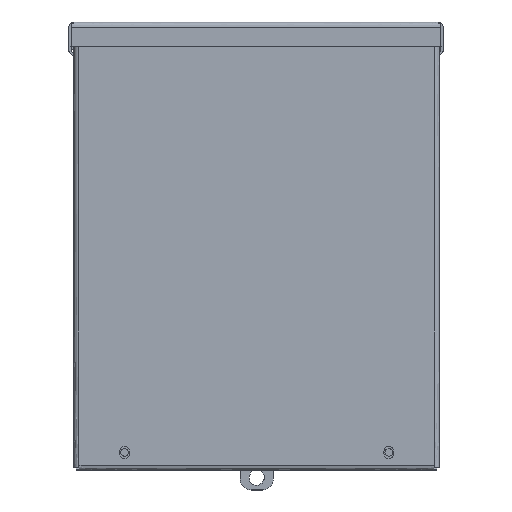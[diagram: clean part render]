
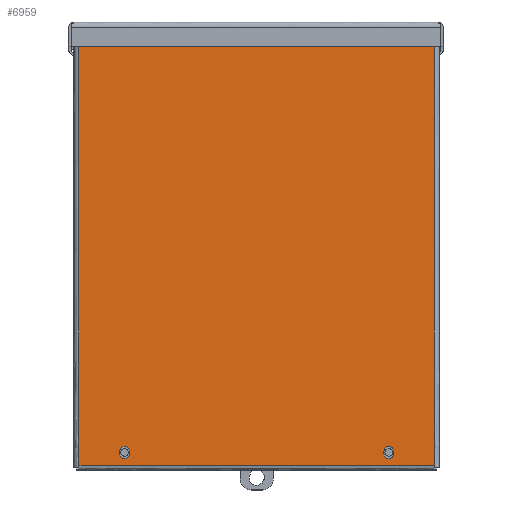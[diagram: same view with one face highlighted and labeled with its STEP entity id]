
A CAD part, top view. The second image highlights one B-rep face of the part: STEP entity #6959.
In plain terms, the highlighted free-form (B-spline) face has degree [1, 1] with [2, 2] control points.
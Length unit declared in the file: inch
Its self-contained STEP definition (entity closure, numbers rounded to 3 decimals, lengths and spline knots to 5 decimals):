
#6174=CARTESIAN_POINT('V71',(0.9855,-0.055,
   9.622));
#6175=VERTEX_POINT('V71',#6174);
#6183=CARTESIAN_POINT('V74',(1.2045,-0.055,
   9.622));
#6184=VERTEX_POINT('V74',#6183);
#6185=CARTESIAN_POINT('E88',(1.2045,-0.055,
   9.622));
#6186=CARTESIAN_POINT('E88',(1.2045,-0.055,
   9.5125));
#6187=CARTESIAN_POINT('E88',(1.095,-0.055,
   9.5125));
#6188=CARTESIAN_POINT('E88',(0.9855,-0.055,
   9.5125));
#6189=CARTESIAN_POINT('E88',(0.9855,-0.055,
   9.622));
#6197=(BOUNDED_CURVE()B_SPLINE_CURVE(2,(#6185,#6186,#6187,#6188,
   #6189),.CIRCULAR_ARC.,.F.,.U.)B_SPLINE_CURVE_WITH_KNOTS((3,2,3),
   (0.0,0.5,1.0),.UNSPECIFIED.)CURVE()
   GEOMETRIC_REPRESENTATION_ITEM()RATIONAL_B_SPLINE_CURVE((1.0,
   0.707,1.0,0.707,1.0))REPRESENTATION_ITEM(
   'E88'));
#6198=EDGE_CURVE('E88',#6184,#6175,#6197,.T.);
#6231=CARTESIAN_POINT('V73',(1.2045,-0.055,
   9.684));
#6232=VERTEX_POINT('V73',#6231);
#6233=CARTESIAN_POINT('E87',(1.2045,-0.055,
   9.684));
#6234=CARTESIAN_POINT('E87',(1.2045,-0.055,
   9.622));
#6235=QUASI_UNIFORM_CURVE('E87',1,(#6233,#6234),.POLYLINE_FORM.,.F.,
   .U.);
#6236=EDGE_CURVE('E87',#6232,#6184,#6235,.T.);
#6272=CARTESIAN_POINT('V72',(0.9855,-0.055,
   9.684));
#6273=VERTEX_POINT('V72',#6272);
#6274=CARTESIAN_POINT('E86',(0.9855,-0.055,
   9.684));
#6275=CARTESIAN_POINT('E86',(0.9855,-0.055,
   9.7935));
#6276=CARTESIAN_POINT('E86',(1.095,-0.055,
   9.7935));
#6277=CARTESIAN_POINT('E86',(1.2045,-0.055,
   9.7935));
#6278=CARTESIAN_POINT('E86',(1.2045,-0.055,
   9.684));
#6286=(BOUNDED_CURVE()B_SPLINE_CURVE(2,(#6274,#6275,#6276,#6277,
   #6278),.CIRCULAR_ARC.,.F.,.U.)B_SPLINE_CURVE_WITH_KNOTS((3,2,3),
   (0.0,0.5,1.0),.UNSPECIFIED.)CURVE()
   GEOMETRIC_REPRESENTATION_ITEM()RATIONAL_B_SPLINE_CURVE((1.0,
   0.707,1.0,0.707,1.0))REPRESENTATION_ITEM(
   'E86'));
#6287=EDGE_CURVE('E86',#6273,#6232,#6286,.T.);
#6320=CARTESIAN_POINT('E85',(0.9855,-0.055,
   9.622));
#6321=CARTESIAN_POINT('E85',(0.9855,-0.055,
   9.684));
#6322=QUASI_UNIFORM_CURVE('E85',1,(#6320,#6321),.POLYLINE_FORM.,.F.,
   .U.);
#6323=EDGE_CURVE('E85',#6175,#6273,#6322,.T.);
#6352=CARTESIAN_POINT('V67',(7.2045,-0.055,
   9.684));
#6353=VERTEX_POINT('V67',#6352);
#6361=CARTESIAN_POINT('V70',(6.9855,-0.055,
   9.684));
#6362=VERTEX_POINT('V70',#6361);
#6363=CARTESIAN_POINT('E84',(6.9855,-0.055,
   9.684));
#6364=CARTESIAN_POINT('E84',(6.9855,-0.055,
   9.7935));
#6365=CARTESIAN_POINT('E84',(7.095,-0.055,
   9.7935));
#6366=CARTESIAN_POINT('E84',(7.2045,-0.055,
   9.7935));
#6367=CARTESIAN_POINT('E84',(7.2045,-0.055,
   9.684));
#6375=(BOUNDED_CURVE()B_SPLINE_CURVE(2,(#6363,#6364,#6365,#6366,
   #6367),.CIRCULAR_ARC.,.F.,.U.)B_SPLINE_CURVE_WITH_KNOTS((3,2,3),
   (0.0,0.5,1.0),.UNSPECIFIED.)CURVE()
   GEOMETRIC_REPRESENTATION_ITEM()RATIONAL_B_SPLINE_CURVE((1.0,
   0.707,1.0,0.707,1.0))REPRESENTATION_ITEM(
   'E84'));
#6376=EDGE_CURVE('E84',#6362,#6353,#6375,.T.);
#6409=CARTESIAN_POINT('V69',(6.9855,-0.055,
   9.622));
#6410=VERTEX_POINT('V69',#6409);
#6411=CARTESIAN_POINT('E83',(6.9855,-0.055,
   9.622));
#6412=CARTESIAN_POINT('E83',(6.9855,-0.055,
   9.684));
#6413=QUASI_UNIFORM_CURVE('E83',1,(#6411,#6412),.POLYLINE_FORM.,.F.,
   .U.);
#6414=EDGE_CURVE('E83',#6410,#6362,#6413,.T.);
#6450=CARTESIAN_POINT('V68',(7.2045,-0.055,
   9.622));
#6451=VERTEX_POINT('V68',#6450);
#6452=CARTESIAN_POINT('E82',(7.2045,-0.055,
   9.622));
#6453=CARTESIAN_POINT('E82',(7.2045,-0.055,
   9.5125));
#6454=CARTESIAN_POINT('E82',(7.095,-0.055,
   9.5125));
#6455=CARTESIAN_POINT('E82',(6.9855,-0.055,
   9.5125));
#6456=CARTESIAN_POINT('E82',(6.9855,-0.055,
   9.622));
#6464=(BOUNDED_CURVE()B_SPLINE_CURVE(2,(#6452,#6453,#6454,#6455,
   #6456),.CIRCULAR_ARC.,.F.,.U.)B_SPLINE_CURVE_WITH_KNOTS((3,2,3),
   (0.0,0.5,1.0),.UNSPECIFIED.)CURVE()
   GEOMETRIC_REPRESENTATION_ITEM()RATIONAL_B_SPLINE_CURVE((1.0,
   0.707,1.0,0.707,1.0))REPRESENTATION_ITEM(
   'E82'));
#6465=EDGE_CURVE('E82',#6451,#6410,#6464,.T.);
#6498=CARTESIAN_POINT('E81',(7.2045,-0.055,
   9.684));
#6499=CARTESIAN_POINT('E81',(7.2045,-0.055,
   9.622));
#6500=QUASI_UNIFORM_CURVE('E81',1,(#6498,#6499),.POLYLINE_FORM.,.F.,
   .U.);
#6501=EDGE_CURVE('E81',#6353,#6451,#6500,.T.);
#6856=CARTESIAN_POINT('V44',(0.06,-0.055,
   9.945));
#6857=VERTEX_POINT('V44',#6856);
#6894=CARTESIAN_POINT('V45',(0.06,-0.055,
   0.));
#6895=VERTEX_POINT('V45',#6894);
#6896=CARTESIAN_POINT('E52',(0.06,-0.055,
   0.));
#6897=CARTESIAN_POINT('E52',(0.06,-0.055,
   9.945));
#6898=QUASI_UNIFORM_CURVE('E52',1,(#6896,#6897),.POLYLINE_FORM.,.F.,
   .U.);
#6899=EDGE_CURVE('E52',#6895,#6857,#6898,.T.);
#6920=CARTESIAN_POINT('F21',(8.13,-0.055,
   0.));
#6921=CARTESIAN_POINT('F21',(8.13,-0.055,
   9.945));
#6922=CARTESIAN_POINT('F21',(0.06,-0.055,
   0.));
#6923=CARTESIAN_POINT('F21',(0.06,-0.055,
   9.945));
#6924=B_SPLINE_SURFACE_WITH_KNOTS('F21',1,1,((#6920,#6922),(#6921,
   #6923)),.PLANE_SURF.,.F.,.F.,.U.,(2,2),(2,2),(
   0.00015,1.23213),(0.00015,
   0.99985),.UNSPECIFIED.);
#6925=CARTESIAN_POINT('V41',(8.13,-0.055,
   0.));
#6926=VERTEX_POINT('V41',#6925);
#6927=CARTESIAN_POINT('E80',(0.06,-0.055,
   0.0));
#6928=CARTESIAN_POINT('E80',(8.13,-0.055,
   0.0));
#6929=QUASI_UNIFORM_CURVE('E80',1,(#6927,#6928),.POLYLINE_FORM.,.F.,
   .U.);
#6930=EDGE_CURVE('E80',#6895,#6926,#6929,.T.);
#6931=ORIENTED_EDGE('E80',*,*,#6930,.T.);
#6932=CARTESIAN_POINT('V40',(8.13,-0.055,
   9.945));
#6933=VERTEX_POINT('V40',#6932);
#6934=CARTESIAN_POINT('E48',(8.13,-0.055,
   9.945));
#6935=CARTESIAN_POINT('E48',(8.13,-0.055,
   0.));
#6936=QUASI_UNIFORM_CURVE('E48',1,(#6934,#6935),.POLYLINE_FORM.,.F.,
   .U.);
#6937=EDGE_CURVE('E48',#6933,#6926,#6936,.T.);
#6938=ORIENTED_EDGE('E48',*,*,#6937,.F.);
#6939=CARTESIAN_POINT('E60',(0.06,-0.055,
   9.945));
#6940=CARTESIAN_POINT('E60',(8.13,-0.055,
   9.945));
#6941=QUASI_UNIFORM_CURVE('E60',1,(#6939,#6940),.POLYLINE_FORM.,.F.,
   .U.);
#6942=EDGE_CURVE('E60',#6857,#6933,#6941,.T.);
#6943=ORIENTED_EDGE('E60',*,*,#6942,.F.);
#6944=ORIENTED_EDGE('E52',*,*,#6899,.F.);
#6945=EDGE_LOOP('F21',(#6931,#6938,#6943,#6944));
#6946=FACE_OUTER_BOUND('F21',#6945,.T.);
#6947=ORIENTED_EDGE('E81',*,*,#6501,.T.);
#6948=ORIENTED_EDGE('E82',*,*,#6465,.T.);
#6949=ORIENTED_EDGE('E83',*,*,#6414,.T.);
#6950=ORIENTED_EDGE('E84',*,*,#6376,.T.);
#6951=EDGE_LOOP('F21',(#6947,#6948,#6949,#6950));
#6952=FACE_BOUND('F21',#6951,.T.);
#6953=ORIENTED_EDGE('E85',*,*,#6323,.T.);
#6954=ORIENTED_EDGE('E86',*,*,#6287,.T.);
#6955=ORIENTED_EDGE('E87',*,*,#6236,.T.);
#6956=ORIENTED_EDGE('E88',*,*,#6198,.T.);
#6957=EDGE_LOOP('F21',(#6953,#6954,#6955,#6956));
#6958=FACE_BOUND('F21',#6957,.T.);
#6959=ADVANCED_FACE('F21',(#6946,#6952,#6958),#6924,.T.);
